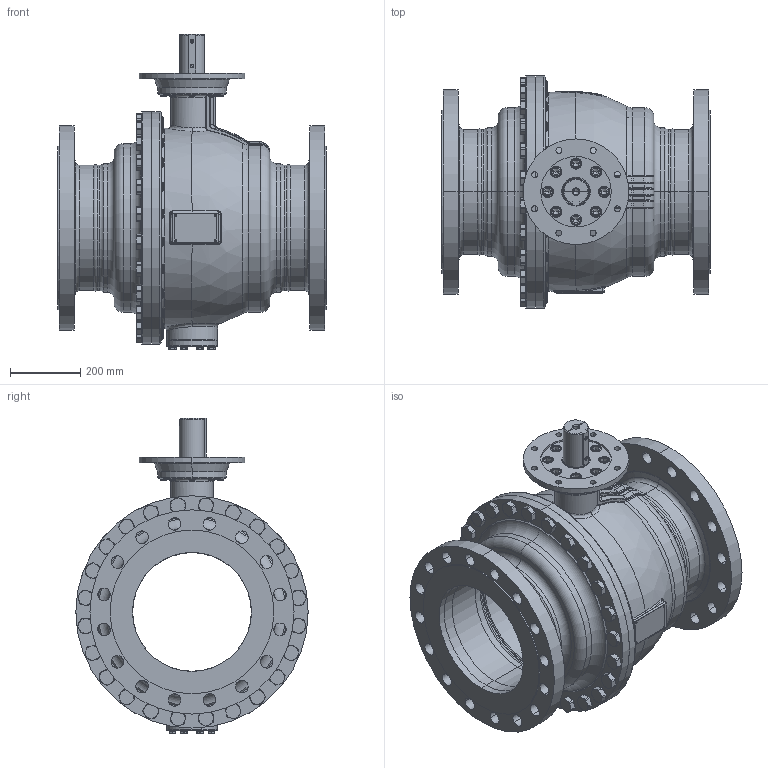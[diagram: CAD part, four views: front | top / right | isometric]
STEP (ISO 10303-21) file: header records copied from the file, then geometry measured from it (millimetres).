
FILE_DESCRIPTION((''),'2;1');
FILE_NAME('KHI-F_350_PN040-F25-P_SW0001','2026-02-05T15:19:01',('fischerkl'),('KLINGER'),'CREO PARAMETRIC BY PTC INC, 2023014','CREO PARAMETRIC BY PTC INC, 2023014','');
FILE_SCHEMA(('CONFIG_CONTROL_DESIGN'));
Products named in the file (1): KHI-F_350_PN040-F25-P_SW0001
Bounding box: 762 x 660 x 895.8 mm (x, y, z)
Volume: 50578548.7 mm3; surface area: 6334421.8 mm2
Topology: 1 solids, 4 shells, 3414 faces, 8622 edges, 5384 vertices
Faces by surface type: plane 1743, cylinder 799, cone 448, torus 295, bspline 99, sphere 30
Entity records: 144462 total; most frequent: CARTESIAN_POINT 63038, ORIENTED_EDGE 17192, DIRECTION 16862, EDGE_CURVE 8596, AXIS2_PLACEMENT_3D 6429, VERTEX_POINT 5384, VECTOR 4004, LINE 4004
